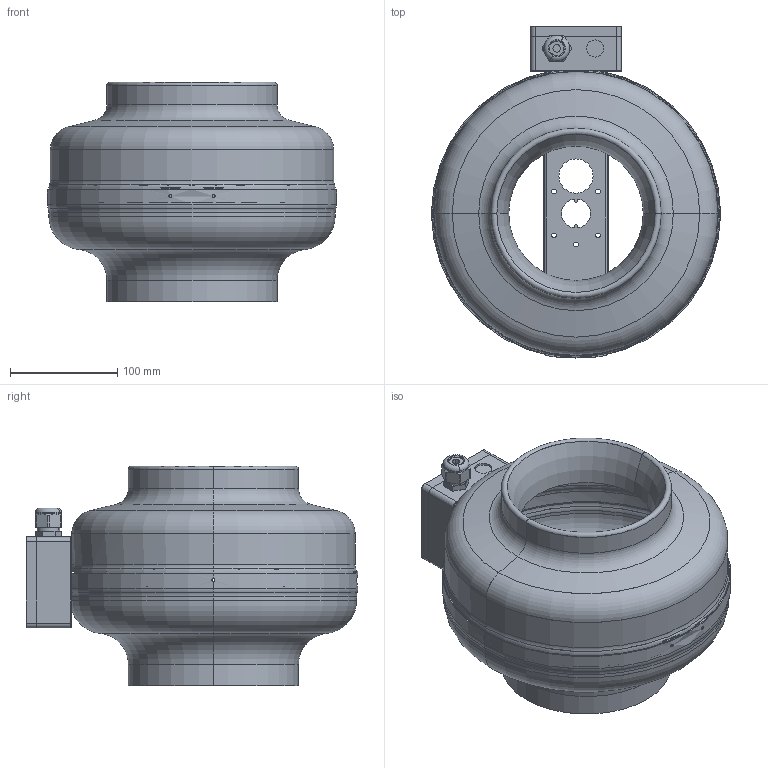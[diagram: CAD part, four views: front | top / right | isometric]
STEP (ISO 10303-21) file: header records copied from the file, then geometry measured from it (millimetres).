
FILE_DESCRIPTION (( 'STEP AP203' ), '1' );
FILE_NAME ('154640_00_RS160ECK01_step.step', '2022-10-07T06:38:43', ( '' ), ( '' ), 'SwSTEP 2.0', 'SolidWorks 2021', '' );
FILE_SCHEMA (( 'CONFIG_CONTROL_DESIGN' ));
Length unit declared in the file: millimetre
Products named in the file (1): 154640_00_RS160ECK01_step
Bounding box: 270 x 310.07 x 205 mm (x, y, z)
Surface area: 454947 mm2 (no closed solid volume)
Topology: 0 solids, 10 shells, 207 faces, 657 edges, 451 vertices
Faces by surface type: cylinder 88, plane 60, torus 48, cone 9, bspline 2
Entity records: 8814 total; most frequent: CARTESIAN_POINT 2950, DIRECTION 1248, ORIENTED_EDGE 1080, EDGE_CURVE 657, AXIS2_PLACEMENT_3D 493, VERTEX_POINT 451, CIRCLE 287, LINE 262
